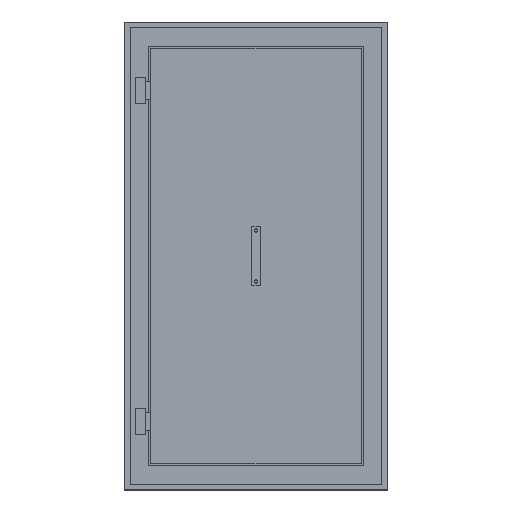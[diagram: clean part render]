
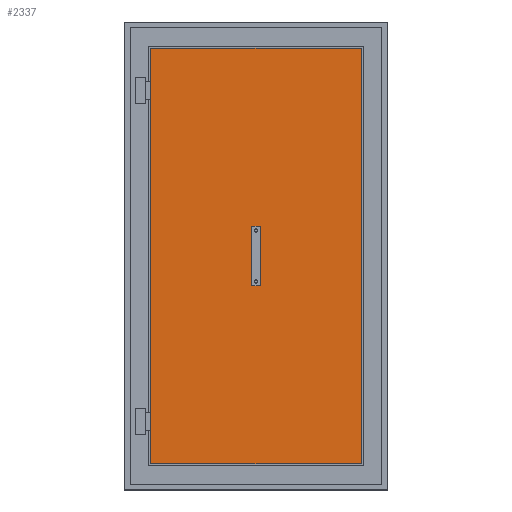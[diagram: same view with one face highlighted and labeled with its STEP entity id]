
A CAD part, top view. The second image highlights one B-rep face of the part: STEP entity #2337.
In plain terms, the highlighted planar face has unit normal (0, 0, 1).
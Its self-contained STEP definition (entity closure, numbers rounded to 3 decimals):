
#711=DIRECTION('',(0.,-1.,0.));
#712=VECTOR('',#711,2032.);
#713=CARTESIAN_POINT('',(-516.,1016.,-41.));
#714=LINE('',#713,#712);
#715=DIRECTION('',(-1.,0.,0.));
#716=VECTOR('',#715,1032.);
#717=CARTESIAN_POINT('',(516.,1016.,-41.));
#718=LINE('',#717,#716);
#719=DIRECTION('',(0.,1.,0.));
#720=VECTOR('',#719,2032.);
#721=CARTESIAN_POINT('',(516.,-1016.,-41.));
#722=LINE('',#721,#720);
#723=DIRECTION('',(1.,0.,0.));
#724=VECTOR('',#723,1032.);
#725=CARTESIAN_POINT('',(-516.,-1016.,-41.));
#726=LINE('',#725,#724);
#727=CARTESIAN_POINT('',(0.,0.,-41.));
#728=DIRECTION('',(0.,0.,1.));
#729=DIRECTION('',(1.,0.,0.));
#730=AXIS2_PLACEMENT_3D('',#727,#728,#729);
#732=CARTESIAN_POINT('',(0.,0.,-41.));
#733=DIRECTION('',(0.,0.,1.));
#734=DIRECTION('',(-1.,0.,0.));
#735=AXIS2_PLACEMENT_3D('',#732,#733,#734);
#1081=CARTESIAN_POINT('',(-516.,1016.,-41.));
#1082=CARTESIAN_POINT('',(-516.,-1016.,-41.));
#1083=VERTEX_POINT('',#1081);
#1084=VERTEX_POINT('',#1082);
#1085=CARTESIAN_POINT('',(516.,-1016.,-41.));
#1086=VERTEX_POINT('',#1085);
#1087=CARTESIAN_POINT('',(516.,1016.,-41.));
#1088=VERTEX_POINT('',#1087);
#1309=CARTESIAN_POINT('',(20.,0.,-41.));
#1310=CARTESIAN_POINT('',(-20.,0.,-41.));
#1311=VERTEX_POINT('',#1309);
#1312=VERTEX_POINT('',#1310);
#2318=CARTESIAN_POINT('',(0.,0.,-41.));
#2319=DIRECTION('',(0.,0.,1.));
#2320=DIRECTION('',(1.,0.,0.));
#2321=AXIS2_PLACEMENT_3D('',#2318,#2319,#2320);
#2322=PLANE('',#2321);
#2324=ORIENTED_EDGE('',*,*,#2323,.F.);
#2326=ORIENTED_EDGE('',*,*,#2325,.F.);
#2328=ORIENTED_EDGE('',*,*,#2327,.F.);
#2330=ORIENTED_EDGE('',*,*,#2329,.F.);
#2331=EDGE_LOOP('',(#2324,#2326,#2328,#2330));
#2332=FACE_OUTER_BOUND('',#2331,.F.);
#2333=ORIENTED_EDGE('',*,*,#1893,.T.);
#2334=ORIENTED_EDGE('',*,*,#2300,.T.);
#2335=EDGE_LOOP('',(#2333,#2334));
#2336=FACE_BOUND('',#2335,.F.);
#731=CIRCLE('',#730,20.);
#736=CIRCLE('',#735,20.);
#1893=EDGE_CURVE('',#1311,#1312,#731,.T.);
#2300=EDGE_CURVE('',#1312,#1311,#736,.T.);
#2323=EDGE_CURVE('',#1083,#1084,#714,.T.);
#2325=EDGE_CURVE('',#1088,#1083,#718,.T.);
#2327=EDGE_CURVE('',#1086,#1088,#722,.T.);
#2329=EDGE_CURVE('',#1084,#1086,#726,.T.);
#2337=ADVANCED_FACE('',(#2332,#2336),#2322,.T.);
